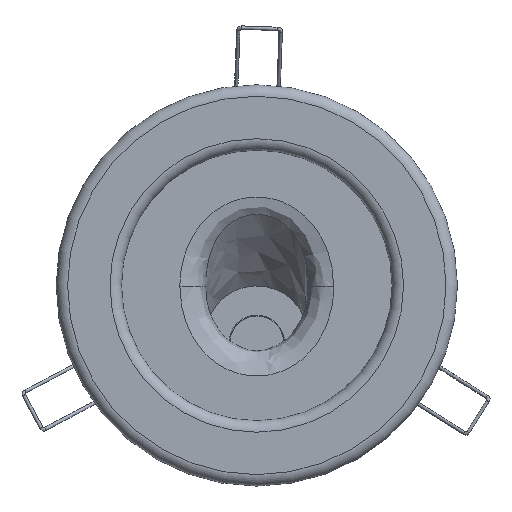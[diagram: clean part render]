
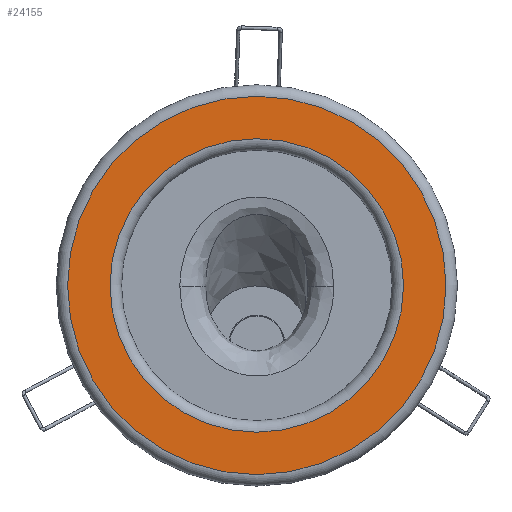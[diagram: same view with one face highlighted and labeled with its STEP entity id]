
A CAD part, front view. The second image highlights one B-rep face of the part: STEP entity #24155.
In plain terms, the highlighted planar face has unit normal (0, -1, 0).
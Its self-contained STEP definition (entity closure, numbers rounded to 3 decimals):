
#5174=FACE_BOUND('',#6637,.T.);
#5238=FACE_OUTER_BOUND('',#6636,.T.);
#6636=EDGE_LOOP('',(#16084,#16085));
#6637=EDGE_LOOP('',(#16086,#16087));
#8074=CIRCLE('',#25602,66.);
#8075=CIRCLE('',#25603,66.);
#8077=CIRCLE('',#25606,51.2);
#8078=CIRCLE('',#25607,51.2);
#9519=VERTEX_POINT('',#35026);
#9520=VERTEX_POINT('',#35027);
#9521=VERTEX_POINT('',#35032);
#9522=VERTEX_POINT('',#35033);
#12108=EDGE_CURVE('',#9519,#9520,#8074,.T.);
#12109=EDGE_CURVE('',#9520,#9519,#8075,.T.);
#12111=EDGE_CURVE('',#9521,#9522,#8077,.T.);
#12112=EDGE_CURVE('',#9522,#9521,#8078,.T.);
#16084=ORIENTED_EDGE('',*,*,#12108,.T.);
#16085=ORIENTED_EDGE('',*,*,#12109,.T.);
#16086=ORIENTED_EDGE('',*,*,#12111,.F.);
#16087=ORIENTED_EDGE('',*,*,#12112,.F.);
#23887=PLANE('',#25605);
#24155=ADVANCED_FACE('',(#5238,#5174),#23887,.T.);
#25602=AXIS2_PLACEMENT_3D('',#35028,#28299,#28300);
#25603=AXIS2_PLACEMENT_3D('',#35029,#28301,#28302);
#25605=AXIS2_PLACEMENT_3D('',#35031,#28305,#28306);
#25606=AXIS2_PLACEMENT_3D('',#35034,#28307,#28308);
#25607=AXIS2_PLACEMENT_3D('',#35035,#28309,#28310);
#28299=DIRECTION('center_axis',(0.,-1.,0.));
#28300=DIRECTION('ref_axis',(0.866,0.,0.5));
#28301=DIRECTION('center_axis',(0.,-1.,0.));
#28302=DIRECTION('ref_axis',(0.866,0.,0.5));
#28305=DIRECTION('center_axis',(0.,-1.,0.));
#28306=DIRECTION('ref_axis',(0.5,0.,-0.866));
#28307=DIRECTION('center_axis',(0.,-1.,0.));
#28308=DIRECTION('ref_axis',(0.866,0.,0.5));
#28309=DIRECTION('center_axis',(0.,-1.,0.));
#28310=DIRECTION('ref_axis',(0.866,0.,0.5));
#35026=CARTESIAN_POINT('',(57.158,54.71,53.));
#35027=CARTESIAN_POINT('',(-33.,54.71,77.158));
#35028=CARTESIAN_POINT('Origin',(0.,54.71,
20.));
#35029=CARTESIAN_POINT('Origin',(0.,54.71,
20.));
#35031=CARTESIAN_POINT('Origin',(44.341,54.71,45.6));
#35032=CARTESIAN_POINT('',(44.341,54.71,45.6));
#35033=CARTESIAN_POINT('',(-25.6,54.71,64.341));
#35034=CARTESIAN_POINT('Origin',(0.,54.71,
20.));
#35035=CARTESIAN_POINT('Origin',(0.,54.71,
20.));
